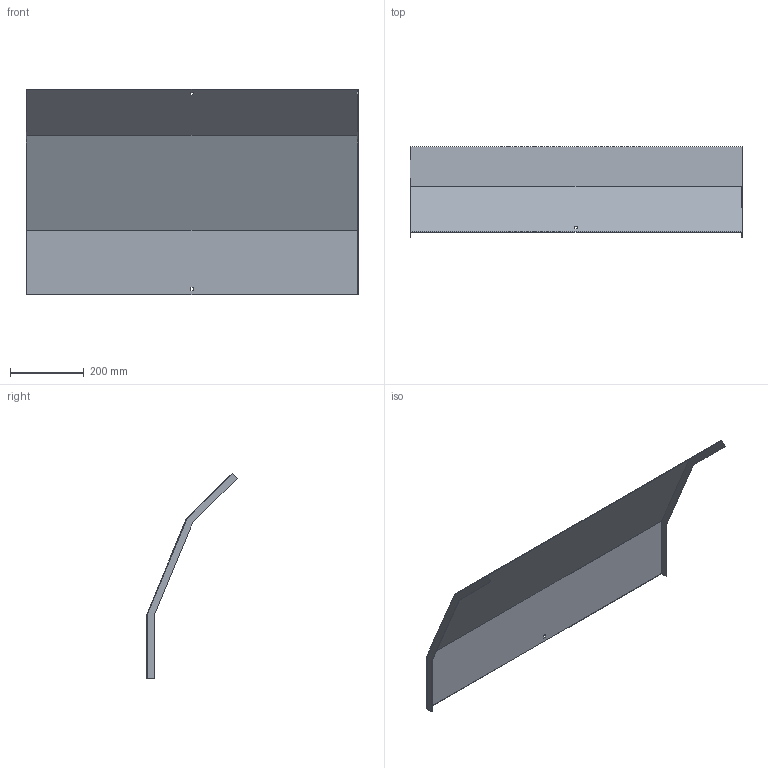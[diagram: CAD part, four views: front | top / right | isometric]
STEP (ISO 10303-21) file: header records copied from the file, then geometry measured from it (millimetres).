
FILE_DESCRIPTION (( 'STEP AP214' ), '1' );
FILE_NAME ('A2_34N3J900.step', '2025-02-21T10:35:43', ( '' ), ( '' ), 'SwSTEP 2.0', 'SolidWorks 2023', '' );
FILE_SCHEMA (( 'AUTOMOTIVE_DESIGN' ));
Length unit declared in the file: millimetre
Products named in the file (1): A2_34N3J900
Bounding box: 903 x 246.09 x 559.98 mm (x, y, z)
Volume: 890948.8 mm3; surface area: 1192697.6 mm2
Topology: 1 solids, 1 shells, 26 faces, 72 edges, 48 vertices
Faces by surface type: plane 26
Entity records: 847 total; most frequent: CARTESIAN_POINT 147, ORIENTED_EDGE 144, DIRECTION 126, EDGE_CURVE 72, LINE 72, VECTOR 72, VERTEX_POINT 48, EDGE_LOOP 30
